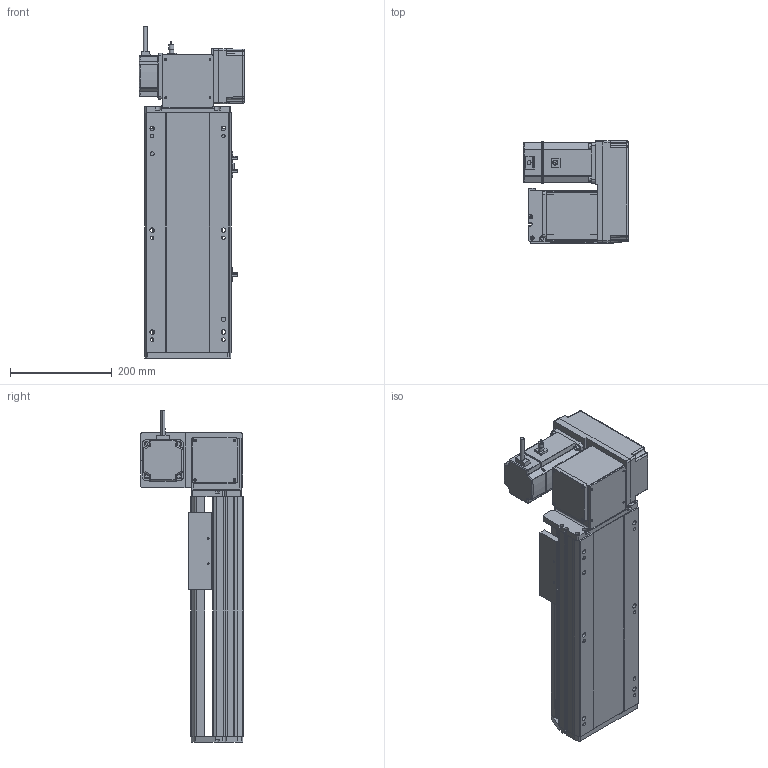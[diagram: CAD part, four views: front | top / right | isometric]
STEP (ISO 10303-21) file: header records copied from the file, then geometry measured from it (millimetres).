
FILE_DESCRIPTION (( 'STEP AP214' ), '1' );
FILE_NAME ('RTB17S-XX-200-RW-M75-C4.STEP', '2025-12-12T02:30:42', ( '' ), ( '' ), 'SwSTEP 2.0', 'SolidWorks 2018', '' );
FILE_SCHEMA (( 'AUTOMOTIVE_DESIGN' ));
Length unit declared in the file: millimetre
Products named in the file (15): RTB17S-XX-200-RW-M75-C4; RTB17S-L-007奻裔^RTB17S-XX-XX-RW-M75-C4; RTB17S-L-004-賑釱^RTB17S-賑釱_RTB17S-XX-XX-RW-M75-C4; RTB17S-L-001-耜醱啣^RTB17S-XX-XX-RW-M75-C4; 750W萇儂^RTB17S-XX-XX-RW-M75-C4; RTB22S-GY-005P^RTB17S-RW-々湍釱蚾饜-750W_RTB17S-XX-XX-RW-M75-C4; RMP17S-L-014-T20-P75--々湍釱^RTB17S-RW-々湍釱蚾饜-750W_RTB17S-XX-XX-RW-M75-C4; RTB17S-RW-々湍釱蚾饜-750W^RTB17S-XX-XX-RW-M75-C4; RTB17-R-011菁釱^RTB17S-XX-XX-RW-M75-C4; RTH13-BL-012覜茼え俋离^RTB17S-賑釱_RTB17S-XX-XX-RW-M75-C4; RTB22S-GY-018P^RTB17S-RW-々湍釱蚾饜-750W_RTB17S-XX-XX-RW-M75-C4; RTB22S-GY-017P^RTB17S-RW-々湍釱蚾饜-750W_RTB17S-XX-XX-RW-M75-C4; EE672^RTB17S-XX-XX-RW-M75-C4; RTB22S-GY-008-M75--萇儂啣^RTB17S-RW-々湍釱蚾饜-750W_RTB17S-XX-XX-RW-M75-C4; RTB17S-賑釱^RTB17S-XX-XX-RW-M75-C4
Assembly tree (17 placements, depth 3):
  RTB17S-XX-200-RW-M75-C4
    RTB17-R-011菁釱^RTB17S-XX-XX-RW-M75-C4
    EE672^RTB17S-XX-XX-RW-M75-C4  x3
    RTB17S-L-001-耜醱啣^RTB17S-XX-XX-RW-M75-C4
    RTB17S-賑釱^RTB17S-XX-XX-RW-M75-C4
      RTB17S-L-004-賑釱^RTB17S-賑釱_RTB17S-XX-XX-RW-M75-C4
      RTH13-BL-012覜茼え俋离^RTB17S-賑釱_RTB17S-XX-XX-RW-M75-C4
    RTB17S-L-007奻裔^RTB17S-XX-XX-RW-M75-C4
    750W萇儂^RTB17S-XX-XX-RW-M75-C4
    RTB17S-RW-々湍釱蚾饜-750W^RTB17S-XX-XX-RW-M75-C4
      RMP17S-L-014-T20-P75--々湍釱^RTB17S-RW-々湍釱蚾饜-750W_RTB17S-XX-XX-RW-M75-C4
      RTB22S-GY-005P^RTB17S-RW-々湍釱蚾饜-750W_RTB17S-XX-XX-RW-M75-C4
      RTB22S-GY-017P^RTB17S-RW-々湍釱蚾饜-750W_RTB17S-XX-XX-RW-M75-C4  x2
      RTB22S-GY-008-M75--萇儂啣^RTB17S-RW-々湍釱蚾饜-750W_RTB17S-XX-XX-RW-M75-C4
      RTB22S-GY-018P^RTB17S-RW-々湍釱蚾饜-750W_RTB17S-XX-XX-RW-M75-C4
Bounding box: 207.4 x 201.5 x 652.2 mm (x, y, z)
Volume: 7202833.1 mm3; surface area: 1087356.4 mm2
Topology: 17 solids, 17 shells, 2025 faces, 5566 edges, 3590 vertices
Faces by surface type: plane 962, cylinder 647, bspline 294, cone 110, sphere 8, torus 4
Entity records: 55030 total; most frequent: CARTESIAN_POINT 16030, ORIENTED_EDGE 7976, DIRECTION 7502, EDGE_CURVE 3988, AXIS2_PLACEMENT_3D 2610, VERTEX_POINT 2594, LINE 2282, VECTOR 2282
